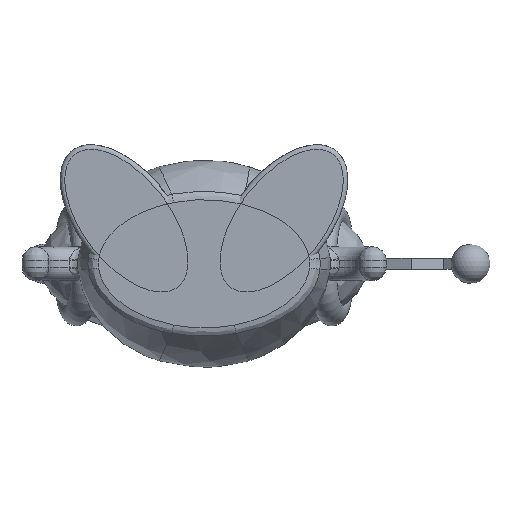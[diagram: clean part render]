
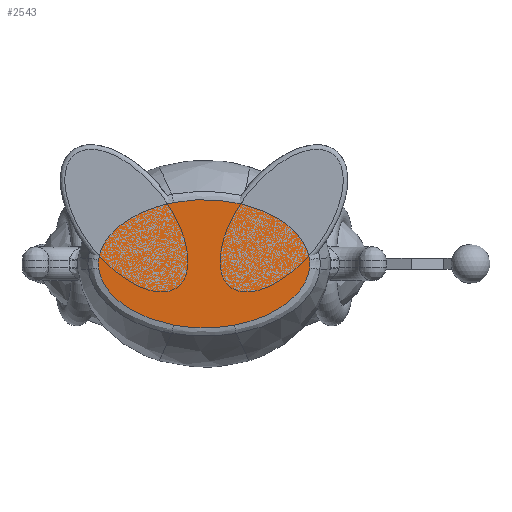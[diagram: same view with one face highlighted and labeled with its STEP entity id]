
A CAD part, front view. The second image highlights one B-rep face of the part: STEP entity #2543.
In plain terms, the highlighted planar face has unit normal (0, -1, 0).
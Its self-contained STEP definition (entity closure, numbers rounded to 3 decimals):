
#95=PLANE('',#2939);
#412=ELLIPSE('',#2927,70.941,33.288);
#414=ELLIPSE('',#2932,42.036,24.632);
#415=ELLIPSE('',#2935,70.941,33.288);
#416=ELLIPSE('',#2938,43.978,26.277);
#512=FACE_OUTER_BOUND('',#678,.T.);
#678=EDGE_LOOP('',(#2000,#2001,#2002,#2003,#2004,#2005,#2006,#2007));
#821=B_SPLINE_CURVE_WITH_KNOTS('',3,(#6225,#6226,#6227,#6228,#6229,#6230,
#6231,#6232,#6233,#6234,#6235),.UNSPECIFIED.,.F.,.F.,(4,1,1,1,1,1,1,1,4),
(-4.423,-3.791,-3.159,-1.896,
-1.264,-0.632,-0.316,-0.158,
0.),.UNSPECIFIED.);
#824=B_SPLINE_CURVE_WITH_KNOTS('',3,(#6327,#6328,#6329,#6330,#6331,#6332,
#6333,#6334,#6335,#6336),.UNSPECIFIED.,.F.,.F.,(4,1,1,1,1,1,1,4),(-4.423,
-4.265,-4.107,-3.791,-3.159,
-1.896,-0.632,0.),
 .UNSPECIFIED.);
#825=B_SPLINE_CURVE_WITH_KNOTS('',3,(#6417,#6418,#6419,#6420,#6421,#6422,
#6423,#6424,#6425,#6426,#6427),.UNSPECIFIED.,.F.,.F.,(4,1,1,1,1,1,1,1,4),
(-4.089,-2.921,-1.753,-1.168,
-0.584,-0.292,-0.146,-0.073,
0.),.UNSPECIFIED.);
#827=B_SPLINE_CURVE_WITH_KNOTS('',3,(#6502,#6503,#6504,#6505,#6506,#6507,
#6508,#6509,#6510),.UNSPECIFIED.,.F.,.F.,(4,1,1,1,1,1,4),(-4.423,
-4.265,-4.107,-3.791,-3.159,
-1.896,0.),.UNSPECIFIED.);
#1108=VERTEX_POINT('',#6160);
#1109=VERTEX_POINT('',#6162);
#1112=VERTEX_POINT('',#6223);
#1113=VERTEX_POINT('',#6267);
#1114=VERTEX_POINT('',#6325);
#1115=VERTEX_POINT('',#6357);
#1116=VERTEX_POINT('',#6415);
#1118=VERTEX_POINT('',#6449);
#1416=EDGE_CURVE('',#1108,#1109,#412,.T.);
#1420=EDGE_CURVE('',#1112,#1108,#821,.T.);
#1423=EDGE_CURVE('',#1113,#1112,#414,.T.);
#1426=EDGE_CURVE('',#1114,#1113,#824,.T.);
#1428=EDGE_CURVE('',#1115,#1114,#415,.T.);
#1430=EDGE_CURVE('',#1116,#1115,#825,.T.);
#1432=EDGE_CURVE('',#1118,#1116,#416,.T.);
#1434=EDGE_CURVE('',#1109,#1118,#827,.T.);
#2000=ORIENTED_EDGE('',*,*,#1416,.F.);
#2001=ORIENTED_EDGE('',*,*,#1420,.F.);
#2002=ORIENTED_EDGE('',*,*,#1423,.F.);
#2003=ORIENTED_EDGE('',*,*,#1426,.F.);
#2004=ORIENTED_EDGE('',*,*,#1428,.F.);
#2005=ORIENTED_EDGE('',*,*,#1430,.F.);
#2006=ORIENTED_EDGE('',*,*,#1432,.F.);
#2007=ORIENTED_EDGE('',*,*,#1434,.F.);
#2543=ADVANCED_FACE('',(#512),#95,.F.);
#2927=AXIS2_PLACEMENT_3D('',#6163,#3330,#3331);
#2932=AXIS2_PLACEMENT_3D('',#6269,#3340,#3341);
#2935=AXIS2_PLACEMENT_3D('',#6359,#3346,#3347);
#2938=AXIS2_PLACEMENT_3D('',#6451,#3352,#3353);
#2939=AXIS2_PLACEMENT_3D('',#6614,#3354,#3355);
#3330=DIRECTION('center_axis',(0.,1.,0.));
#3331=DIRECTION('ref_axis',(1.,0.,0.));
#3340=DIRECTION('center_axis',(0.,1.,0.));
#3341=DIRECTION('ref_axis',(1.,0.,0.));
#3346=DIRECTION('center_axis',(0.,1.,0.));
#3347=DIRECTION('ref_axis',(1.,0.,0.));
#3352=DIRECTION('center_axis',(0.,1.,0.));
#3353=DIRECTION('ref_axis',(1.,0.,-0.003));
#3354=DIRECTION('center_axis',(0.,1.,0.));
#3355=DIRECTION('ref_axis',(0.,0.,1.));
#6160=CARTESIAN_POINT('',(-46.625,0.,-1.89));
#6162=CARTESIAN_POINT('',(-46.625,0.,1.89));
#6163=CARTESIAN_POINT('Origin',(24.202,0.,0.));
#6223=CARTESIAN_POINT('',(-13.484,0.,-27.095));
#6225=CARTESIAN_POINT('Ctrl Pts',(-13.484,0.,
-27.095));
#6226=CARTESIAN_POINT('Ctrl Pts',(-15.55,0.,
-26.685));
#6227=CARTESIAN_POINT('Ctrl Pts',(-19.65,0.,
-25.704));
#6228=CARTESIAN_POINT('Ctrl Pts',(-27.619,0.,
-22.959));
#6229=CARTESIAN_POINT('Ctrl Pts',(-35.113,0.,
-18.937));
#6230=CARTESIAN_POINT('Ctrl Pts',(-41.388,0.,
-13.257));
#6231=CARTESIAN_POINT('Ctrl Pts',(-44.445,0.,
-8.915));
#6232=CARTESIAN_POINT('Ctrl Pts',(-45.847,0.,
-5.492));
#6233=CARTESIAN_POINT('Ctrl Pts',(-46.385,0.,
-3.453));
#6234=CARTESIAN_POINT('Ctrl Pts',(-46.561,0.,
-2.413));
#6235=CARTESIAN_POINT('Ctrl Pts',(-46.625,0.,
-1.89));
#6267=CARTESIAN_POINT('',(13.484,0.,-27.095));
#6269=CARTESIAN_POINT('Origin',(0.,0.,-3.765));
#6325=CARTESIAN_POINT('',(46.625,0.,-1.89));
#6327=CARTESIAN_POINT('Ctrl Pts',(46.625,0.,
-1.89));
#6328=CARTESIAN_POINT('Ctrl Pts',(46.561,0.,
-2.413));
#6329=CARTESIAN_POINT('Ctrl Pts',(46.386,0.,
-3.452));
#6330=CARTESIAN_POINT('Ctrl Pts',(45.846,0.,
-5.49));
#6331=CARTESIAN_POINT('Ctrl Pts',(44.45,0.,
-8.917));
#6332=CARTESIAN_POINT('Ctrl Pts',(40.143,0.,
-14.993));
#6333=CARTESIAN_POINT('Ctrl Pts',(31.535,0.,
-21.308));
#6334=CARTESIAN_POINT('Ctrl Pts',(21.698,0.,
-25.209));
#6335=CARTESIAN_POINT('Ctrl Pts',(15.55,0.,
-26.685));
#6336=CARTESIAN_POINT('Ctrl Pts',(13.484,0.,
-27.095));
#6357=CARTESIAN_POINT('',(46.625,0.,1.89));
#6359=CARTESIAN_POINT('Origin',(-24.202,0.,0.));
#6415=CARTESIAN_POINT('',(16.812,0.,26.438));
#6417=CARTESIAN_POINT('Ctrl Pts',(16.812,0.,
26.438));
#6418=CARTESIAN_POINT('Ctrl Pts',(20.595,0.,
25.515));
#6419=CARTESIAN_POINT('Ctrl Pts',(28.011,0.,
23.039));
#6420=CARTESIAN_POINT('Ctrl Pts',(36.454,0.,
18.019));
#6421=CARTESIAN_POINT('Ctrl Pts',(42.033,0.,
12.529));
#6422=CARTESIAN_POINT('Ctrl Pts',(44.711,0.,
8.419));
#6423=CARTESIAN_POINT('Ctrl Pts',(45.934,0.,
5.227));
#6424=CARTESIAN_POINT('Ctrl Pts',(46.349,0.,
3.572));
#6425=CARTESIAN_POINT('Ctrl Pts',(46.527,0.,
2.614));
#6426=CARTESIAN_POINT('Ctrl Pts',(46.595,0.,
2.132));
#6427=CARTESIAN_POINT('Ctrl Pts',(46.625,0.,
1.89));
#6449=CARTESIAN_POINT('',(-13.495,0.,27.093));
#6451=CARTESIAN_POINT('Origin',(0.292,0.,2.116));
#6502=CARTESIAN_POINT('Ctrl Pts',(-46.625,0.,
1.89));
#6503=CARTESIAN_POINT('Ctrl Pts',(-46.561,0.,
2.413));
#6504=CARTESIAN_POINT('Ctrl Pts',(-46.386,0.,
3.452));
#6505=CARTESIAN_POINT('Ctrl Pts',(-45.848,0.,
5.491));
#6506=CARTESIAN_POINT('Ctrl Pts',(-44.454,0.,
8.918));
#6507=CARTESIAN_POINT('Ctrl Pts',(-40.157,0.,
15.));
#6508=CARTESIAN_POINT('Ctrl Pts',(-29.82,0.,
22.579));
#6509=CARTESIAN_POINT('Ctrl Pts',(-19.697,0.,
25.881));
#6510=CARTESIAN_POINT('Ctrl Pts',(-13.495,0.,
27.093));
#6614=CARTESIAN_POINT('Origin',(-0.044,0.,0.038));
